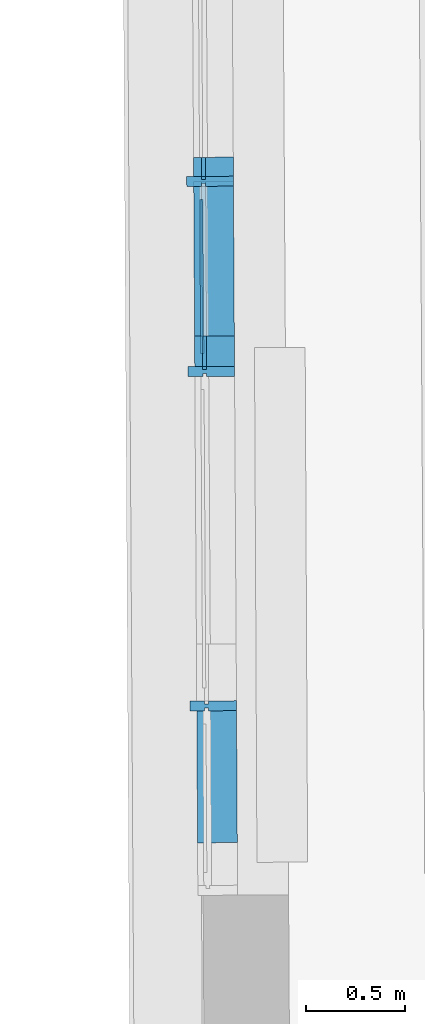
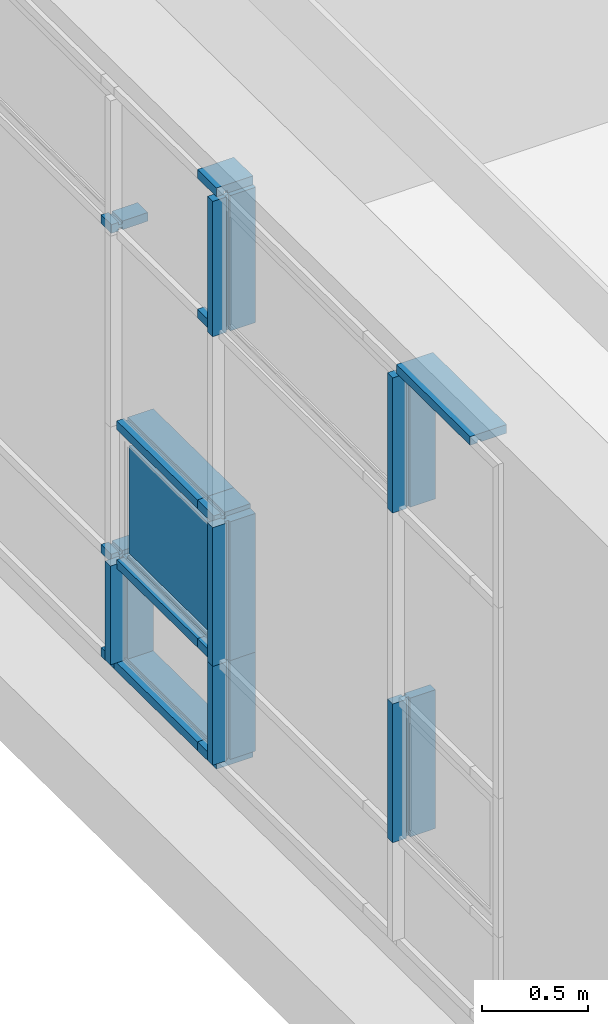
# One storey, part 125 of 158: 19 building element parts, 1 element without a shape of its own.
"""IFC2X3 building model written with IfcOpenShell, lengths in metres."""

from ifc_helpers import new_model, entity, si_unit, converted_unit, derived_unit, money_unit, direction, frame, origin_with_axes, place, context, subcontext, project, spatial, faceted_brep, material, type_object, element, aggregate, save


model = new_model("IFC2X3")

# Units and contexts
model_context = context("Model", 3, precision=1e-05, world=origin_with_axes(), true_north=direction((0.0, 1.0)))
body_context = subcontext(model_context, "Body", "Model", "MODEL_VIEW")
ifc_project = project(units=[si_unit("LENGTHUNIT", "METRE"), si_unit("AREAUNIT", "SQUARE_METRE"), si_unit("VOLUMEUNIT", "CUBIC_METRE"), converted_unit("PLANEANGLEUNIT", "DEGREE", entity("IfcPlaneAngleMeasure", 0.0174532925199), si_unit("PLANEANGLEUNIT", "RADIAN"), dimensions=[0, 0, 0, 0, 0, 0, 0]), money_unit("EUR"), converted_unit("TIMEUNIT", "Year", entity("IfcTimeMeasure", 31556926.0), si_unit("TIMEUNIT", "SECOND"), dimensions=[0, 0, 1, 0, 0, 0, 0]), si_unit("MASSUNIT", "GRAM", prefix="KILO"), si_unit("THERMODYNAMICTEMPERATUREUNIT", "DEGREE_CELSIUS"), si_unit("LUMINOUSINTENSITYUNIT", "LUMEN"), si_unit("ENERGYUNIT", "JOULE", prefix="MEGA"), derived_unit("THERMALCONDUCTANCEUNIT", [(si_unit("POWERUNIT", "WATT"), 1), (si_unit("LENGTHUNIT", "METRE"), -1), (si_unit("THERMODYNAMICTEMPERATUREUNIT", "KELVIN"), -1)]), derived_unit("SPECIFICHEATCAPACITYUNIT", [(si_unit("ENERGYUNIT", "JOULE"), 1), (si_unit("MASSUNIT", "GRAM", prefix="KILO"), -1), (si_unit("THERMODYNAMICTEMPERATUREUNIT", "KELVIN"), -1)]), derived_unit("MASSDENSITYUNIT", [(si_unit("MASSUNIT", "GRAM", prefix="KILO"), 1), (si_unit("VOLUMEUNIT", "CUBIC_METRE"), -1)])], contexts=[model_context])

# Site, building, storey
site_placement = place(None, origin_with_axes())
site = spatial("IfcSite", under=ifc_project, at=site_placement, Name="Gelände", CompositionType="ELEMENT")
building_placement = place(site_placement, origin_with_axes())
building = spatial("IfcBuilding", under=site, at=building_placement, Name="Gebäude", CompositionType="ELEMENT")
storey_placement = place(building_placement, origin_with_axes())
storey = spatial("IfcBuildingStorey", under=building, at=storey_placement, Name="ERDGESCHOSS", CompositionType="ELEMENT", Elevation=0.0)

# Proxy, building element parts
building_element_proxy_type = type_object("IfcBuildingElementProxyType", Name="Fassadentyp", PredefinedType="NOTDEFINED")
proxy_placement = place(storey_placement, frame((-34.889376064, 47.589579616, 1.34043902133), z_axis=(0.0, 0.0, 1.0), x_axis=(1.0, 0.0, 0.0)))
proxy = element("IfcBuildingElementProxy", 1, at=proxy_placement, inside=storey, type_object=building_element_proxy_type, Name="Fassade-002")
ifc_material_1 = material(Name="45_Glas, Normalglas")
building_element_part_1_placement = place(proxy_placement, origin_with_axes())
building_element_part_1 = element("IfcBuildingElementPart", 2, at=building_element_part_1_placement, material=ifc_material_1, Name="45_Glas, Normalglas", context=body_context, shape_type="Brep", body=[
    faceted_brep([(-0.0381650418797, 3.09723014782, 0.710000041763), (-0.0221653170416, 3.09732398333, 0.710000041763), (-0.0176057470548, 2.31987986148, 0.710000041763), (-0.0336054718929, 2.31978602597, 0.710000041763), (-0.0381650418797, 3.09723014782, 1.330000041), (-0.0221653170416, 3.09732398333, 1.330000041), (-0.0176057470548, 2.31987986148, 1.330000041), (-0.0336054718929, 2.31978602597, 1.330000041)], [[[0, 1, 2, 3]], [[4, 5, 1, 0]], [[1, 5, 6, 2]], [[3, 2, 6, 7]], [[0, 3, 7, 4]], [[7, 6, 5, 4]]]),
])
ifc_material_2 = material(Name="53_Metall, Aluminium")
building_element_part_2_placement = place(proxy_placement, origin_with_axes())
building_element_part_2 = element("IfcBuildingElementPart", 3, at=building_element_part_2_placement, material=ifc_material_2, Name="53_Metall, Aluminium", context=body_context, shape_type="Brep", body=[
    faceted_brep([(-0.00869338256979, 3.18740454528, 0.035), (-0.0286930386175, 3.18728725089, 0.035), (-0.0286930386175, 3.18728725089, 0.05), (-0.0686923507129, 3.18705266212, 0.05), (-0.0686923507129, 3.18705266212, 0.0), (0.131304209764, 3.18822560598, 0.0), (0.131304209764, 3.18822560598, 0.05), (-0.00869338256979, 3.18740454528, 0.05), (-0.00940318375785, 3.30843147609, 0.035), (-0.0294028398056, 3.30831418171, 0.035), (-0.0294028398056, 3.30831418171, 0.05), (-0.069402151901, 3.30807959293, 0.05), (-0.069402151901, 3.30807959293, 0.0), (0.130594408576, 3.3092525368, 0.0), (0.130594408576, 3.3092525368, 0.05), (-0.00940318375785, 3.30843147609, 0.05)], [[[0, 1, 2, 3, 4, 5, 6, 7]], [[1, 0, 8, 9]], [[10, 2, 1, 9]], [[2, 10, 11, 3]], [[12, 4, 3, 11]], [[13, 5, 4, 12]], [[14, 6, 5, 13]], [[15, 7, 6, 14]], [[0, 7, 15, 8]], [[8, 15, 14, 13, 12, 11, 10, 9]]]),
])
building_element_part_3_placement = place(proxy_placement, origin_with_axes())
building_element_part_3 = element("IfcBuildingElementPart", 4, at=building_element_part_3_placement, material=ifc_material_2, Name="53_Metall, Aluminium", context=body_context, shape_type="Brep", body=[
    faceted_brep([(-0.00307816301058, 2.22996350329, 0.035), (-0.0230778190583, 2.2298462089, 0.035), (-0.0230778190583, 2.2298462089, 0.05), (-0.0630771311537, 2.22961162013, 0.05), (-0.0630771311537, 2.22961162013, 0.0), (0.136919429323, 2.230784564, 0.0), (0.136919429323, 2.230784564, 0.05), (-0.00307816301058, 2.22996350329, 0.05), (-0.00412493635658, 2.40844695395, 0.035), (-0.0241245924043, 2.40832965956, 0.035), (-0.0241245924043, 2.40832965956, 0.05), (-0.0641239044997, 2.40809507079, 0.05), (-0.0641239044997, 2.40809507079, 0.0), (0.135872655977, 2.40926801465, 0.0), (0.135872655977, 2.40926801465, 0.05), (-0.00412493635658, 2.40844695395, 0.05)], [[[0, 1, 2, 3, 4, 5, 6, 7]], [[1, 0, 8, 9]], [[10, 2, 1, 9]], [[2, 10, 11, 3]], [[12, 4, 3, 11]], [[13, 5, 4, 12]], [[14, 6, 5, 13]], [[15, 7, 6, 14]], [[0, 7, 15, 8]], [[8, 15, 14, 13, 12, 11, 10, 9]]]),
])
building_element_part_4_placement = place(proxy_placement, origin_with_axes())
building_element_part_4 = element("IfcBuildingElementPart", 5, at=building_element_part_4_placement, material=ifc_material_2, Name="53_Metall, Aluminium", context=body_context, shape_type="Brep", body=[
    faceted_brep([(-0.00412493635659, 2.40844695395, 0.035), (-0.0241245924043, 2.40832965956, 0.035), (-0.0241245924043, 2.40832965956, 0.05), (-0.0641239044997, 2.40809507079, 0.05), (-0.0641239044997, 2.40809507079, 0.0), (0.135872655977, 2.40926801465, 0.0), (0.135872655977, 2.40926801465, 0.05), (-0.00412493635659, 2.40844695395, 0.05), (-0.00869338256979, 3.18740454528, 0.035), (-0.0286930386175, 3.18728725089, 0.035), (-0.0286930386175, 3.18728725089, 0.05), (-0.0686923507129, 3.18705266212, 0.05), (-0.0686923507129, 3.18705266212, 0.0), (0.131304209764, 3.18822560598, 0.0), (0.131304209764, 3.18822560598, 0.05), (-0.00869338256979, 3.18740454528, 0.05)], [[[0, 1, 2, 3, 4, 5, 6, 7]], [[1, 0, 8, 9]], [[10, 2, 1, 9]], [[2, 10, 11, 3]], [[12, 4, 3, 11]], [[13, 5, 4, 12]], [[14, 6, 5, 13]], [[15, 7, 6, 14]], [[0, 7, 15, 8]], [[8, 15, 14, 13, 12, 11, 10, 9]]]),
])
building_element_part_5_placement = place(proxy_placement, origin_with_axes())
building_element_part_5 = element("IfcBuildingElementPart", 6, at=building_element_part_5_placement, material=ifc_material_2, Name="53_Metall, Aluminium", context=body_context, shape_type="Brep", body=[
    faceted_brep([(-0.00884000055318, 3.21240411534, 2.51000003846), (-0.00884000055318, 3.21240411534, 2.49500003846), (0.131157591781, 3.21322517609, 2.49500003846), (0.131157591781, 3.21322517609, 2.54500003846), (-0.00884000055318, 3.21240411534, 2.54500003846), (-0.00884000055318, 3.21240411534, 2.53000003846), (-0.0288396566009, 3.21228682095, 2.53000003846), (-0.0288396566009, 3.21228682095, 2.54500003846), (-0.0688389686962, 3.21205223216, 2.54500003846), (-0.0688389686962, 3.21205223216, 2.49500003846), (-0.0288396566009, 3.21228682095, 2.49500003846), (-0.0288396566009, 3.21228682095, 2.51000003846), (-0.00940318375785, 3.30843147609, 2.51000003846), (-0.00940318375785, 3.30843147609, 2.49500003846), (0.130594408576, 3.3092525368, 2.49500003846), (0.130594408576, 3.3092525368, 2.54500003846), (-0.00940318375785, 3.30843147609, 2.54500003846), (-0.00940318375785, 3.30843147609, 2.53000003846), (-0.0294028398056, 3.30831418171, 2.53000003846), (-0.0294028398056, 3.30831418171, 2.54500003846), (-0.069402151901, 3.30807959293, 2.54500003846), (-0.069402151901, 3.30807959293, 2.49500003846), (-0.0294028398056, 3.30831418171, 2.49500003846), (-0.0294028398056, 3.30831418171, 2.51000003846)], [[[0, 1, 2, 3, 4, 5, 6, 7, 8, 9, 10, 11]], [[1, 0, 12, 13]], [[1, 13, 14, 2]], [[3, 2, 14, 15]], [[4, 3, 15, 16]], [[4, 16, 17, 5]], [[5, 17, 18, 6]], [[7, 6, 18, 19]], [[19, 20, 8, 7]], [[9, 8, 20, 21]], [[22, 10, 9, 21]], [[11, 10, 22, 23]], [[0, 11, 23, 12]], [[23, 22, 21, 20, 19, 18, 17, 16, 15, 14, 13, 12]]]),
])
building_element_part_6_placement = place(proxy_placement, origin_with_axes())
building_element_part_6 = element("IfcBuildingElementPart", 7, at=building_element_part_6_placement, material=ifc_material_2, Name="53_Metall, Aluminium", context=body_context, shape_type="Brep", body=[
    faceted_brep([(-0.00412493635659, 2.40844695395, 0.610000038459), (-0.00412493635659, 2.40844695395, 0.595000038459), (0.135872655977, 2.40926801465, 0.595000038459), (0.135872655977, 2.40926801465, 0.645000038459), (-0.00412493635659, 2.40844695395, 0.645000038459), (-0.00412493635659, 2.40844695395, 0.630000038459), (-0.0241245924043, 2.40832965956, 0.630000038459), (-0.0241245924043, 2.40832965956, 0.645000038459), (-0.0641239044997, 2.40809507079, 0.645000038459), (-0.0641239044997, 2.40809507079, 0.595000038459), (-0.0241245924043, 2.40832965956, 0.595000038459), (-0.0241245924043, 2.40832965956, 0.610000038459), (-0.00854676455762, 3.16240497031, 0.610000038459), (-0.00854676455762, 3.16240497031, 0.595000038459), (0.131450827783, 3.16322602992, 0.595000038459), (0.131450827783, 3.16322602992, 0.645000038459), (-0.00854676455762, 3.16240497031, 0.645000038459), (-0.00854676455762, 3.16240497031, 0.630000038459), (-0.0285464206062, 3.16228767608, 0.630000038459), (-0.0285464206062, 3.16228767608, 0.645000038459), (-0.0685457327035, 3.16205308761, 0.645000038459), (-0.0685457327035, 3.16205308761, 0.595000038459), (-0.0285464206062, 3.16228767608, 0.595000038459), (-0.0285464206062, 3.16228767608, 0.610000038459)], [[[0, 1, 2, 3, 4, 5, 6, 7, 8, 9, 10, 11]], [[1, 0, 12, 13]], [[1, 13, 14, 2]], [[2, 14, 15, 3]], [[4, 3, 15, 16]], [[4, 16, 17, 5]], [[5, 17, 18, 6]], [[7, 6, 18, 19]], [[19, 20, 8, 7]], [[8, 20, 21, 9]], [[22, 10, 9, 21]], [[11, 10, 22, 23]], [[0, 11, 23, 12]], [[23, 22, 21, 20, 19, 18, 17, 16, 15, 14, 13, 12]]]),
])
building_element_part_7_placement = place(proxy_placement, origin_with_axes())
building_element_part_7 = element("IfcBuildingElementPart", 8, at=building_element_part_7_placement, material=ifc_material_2, Name="53_Metall, Aluminium", context=body_context, shape_type="Brep", body=[
    faceted_brep([(-0.00863473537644, 3.17740471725, 0.620000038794), (-0.00854676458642, 3.16240497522, 0.620000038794), (0.131450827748, 3.16322603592, 0.620000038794), (0.131157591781, 3.21322517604, 0.620000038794), (-0.00884000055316, 3.21240411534, 0.620000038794), (-0.00875202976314, 3.1974043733, 0.620000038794), (-0.0287516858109, 3.19728707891, 0.620000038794), (-0.0288396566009, 3.21228682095, 0.620000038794), (-0.10383836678, 3.211846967, 0.620000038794), (-0.103545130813, 3.16184782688, 0.620000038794), (-0.0285464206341, 3.16228768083, 0.620000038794), (-0.0286343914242, 3.17728742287, 0.620000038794), (-0.00863473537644, 3.17740471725, 0.0500000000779), (-0.00854676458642, 3.16240497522, 0.0500000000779), (0.131450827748, 3.16322603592, 0.0500000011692), (0.131157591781, 3.21322517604, 0.0500000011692), (-0.00884000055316, 3.21240411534, 0.0500000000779), (-0.00875202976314, 3.1974043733, 0.0500000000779), (-0.0287516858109, 3.19728707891, 0.0499999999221), (-0.0288396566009, 3.21228682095, 0.0499999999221), (-0.10383836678, 3.211846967, 0.0499999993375), (-0.103545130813, 3.16184782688, 0.0499999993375), (-0.0285464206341, 3.16228768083, 0.0499999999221), (-0.0286343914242, 3.17728742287, 0.0499999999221)], [[[0, 1, 2, 3, 4, 5, 6, 7, 8, 9, 10, 11]], [[1, 0, 12, 13]], [[1, 13, 14, 2]], [[2, 14, 15, 3]], [[4, 3, 15, 16]], [[4, 16, 17, 5]], [[5, 17, 18, 6]], [[7, 6, 18, 19]], [[19, 20, 8, 7]], [[8, 20, 21, 9]], [[22, 10, 9, 21]], [[11, 10, 22, 23]], [[0, 11, 23, 12]], [[23, 22, 21, 20, 19, 18, 17, 16, 15, 14, 13, 12]]]),
])
building_element_part_8_placement = place(proxy_placement, origin_with_axes())
building_element_part_8 = element("IfcBuildingElementPart", 9, at=building_element_part_8_placement, material=ifc_material_2, Name="53_Metall, Aluminium", context=body_context, shape_type="Brep", body=[
    faceted_brep([(-0.00301951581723, 2.21996367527, 0.620000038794), (-0.00293154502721, 2.20496393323, 0.620000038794), (0.137066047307, 2.20578499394, 0.620000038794), (0.13677281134, 2.25578413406, 0.620000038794), (-0.00322478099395, 2.25496307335, 0.620000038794), (-0.00313681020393, 2.23996333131, 0.620000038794), (-0.0231364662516, 2.23984603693, 0.620000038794), (-0.0232244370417, 2.25484577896, 0.620000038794), (-0.0982231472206, 2.25440592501, 0.620000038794), (-0.0979299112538, 2.20440678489, 0.620000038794), (-0.0229312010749, 2.20484663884, 0.620000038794), (-0.0230191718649, 2.21984638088, 0.620000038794), (-0.00301951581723, 2.21996367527, 0.0500000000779), (-0.00293154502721, 2.20496393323, 0.0500000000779), (0.137066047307, 2.20578499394, 0.0500000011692), (0.13677281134, 2.25578413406, 0.0500000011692), (-0.00322478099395, 2.25496307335, 0.0500000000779), (-0.00313681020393, 2.23996333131, 0.0500000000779), (-0.0231364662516, 2.23984603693, 0.0499999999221), (-0.0232244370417, 2.25484577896, 0.0499999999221), (-0.0982231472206, 2.25440592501, 0.0499999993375), (-0.0979299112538, 2.20440678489, 0.0499999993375), (-0.0229312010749, 2.20484663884, 0.0499999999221), (-0.0230191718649, 2.21984638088, 0.0499999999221)], [[[0, 1, 2, 3, 4, 5, 6, 7, 8, 9, 10, 11]], [[1, 0, 12, 13]], [[1, 13, 14, 2]], [[2, 14, 15, 3]], [[4, 3, 15, 16]], [[4, 16, 17, 5]], [[5, 17, 18, 6]], [[7, 6, 18, 19]], [[19, 20, 8, 7]], [[8, 20, 21, 9]], [[22, 10, 9, 21]], [[11, 10, 22, 23]], [[0, 11, 23, 12]], [[23, 22, 21, 20, 19, 18, 17, 16, 15, 14, 13, 12]]]),
])
building_element_part_9_placement = place(proxy_placement, origin_with_axes())
building_element_part_9 = element("IfcBuildingElementPart", 10, at=building_element_part_9_placement, material=ifc_material_2, Name="53_Metall, Aluminium", context=body_context, shape_type="Brep", body=[
    faceted_brep([(-0.00301951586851, 2.21996368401, 1.42000003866), (-0.00293154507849, 2.20496394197, 1.42000003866), (0.137066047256, 2.20578500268, 1.42000003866), (0.136772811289, 2.2557841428, 1.42000003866), (-0.00322478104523, 2.25496308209, 1.42000003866), (-0.00313681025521, 2.23996334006, 1.42000003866), (-0.0231364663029, 2.23984604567, 1.42000003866), (-0.0232244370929, 2.25484578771, 1.42000003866), (-0.0982231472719, 2.25440593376, 1.42000003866), (-0.0979299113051, 2.20440679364, 1.42000003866), (-0.0229312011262, 2.20484664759, 1.42000003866), (-0.0230191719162, 2.21984638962, 1.42000003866), (-0.00301951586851, 2.21996368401, 0.620000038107), (-0.00293154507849, 2.20496394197, 0.620000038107), (0.137066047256, 2.20578500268, 0.620000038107), (0.136772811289, 2.2557841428, 0.620000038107), (-0.00322478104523, 2.25496308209, 0.620000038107), (-0.00313681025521, 2.23996334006, 0.620000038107), (-0.0231364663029, 2.23984604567, 0.620000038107), (-0.0232244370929, 2.25484578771, 0.620000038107), (-0.0982231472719, 2.25440593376, 0.620000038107), (-0.0979299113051, 2.20440679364, 0.620000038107), (-0.0229312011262, 2.20484664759, 0.620000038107), (-0.0230191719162, 2.21984638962, 0.620000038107)], [[[0, 1, 2, 3, 4, 5, 6, 7, 8, 9, 10, 11]], [[1, 0, 12, 13]], [[1, 13, 14, 2]], [[3, 2, 14, 15]], [[4, 3, 15, 16]], [[4, 16, 17, 5]], [[5, 17, 18, 6]], [[7, 6, 18, 19]], [[19, 20, 8, 7]], [[9, 8, 20, 21]], [[22, 10, 9, 21]], [[11, 10, 22, 23]], [[0, 11, 23, 12]], [[23, 22, 21, 20, 19, 18, 17, 16, 15, 14, 13, 12]]]),
])
building_element_part_10_placement = place(proxy_placement, origin_with_axes())
building_element_part_10 = element("IfcBuildingElementPart", 11, at=building_element_part_10_placement, material=ifc_material_2, Name="53_Metall, Aluminium", context=body_context, shape_type="Brep", body=[
    faceted_brep([(-0.00322478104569, 2.25496308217, 1.41000003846), (-0.00322478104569, 2.25496308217, 1.39500003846), (0.136772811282, 2.25578414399, 1.39500003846), (0.136772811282, 2.25578414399, 1.44500003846), (-0.00322478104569, 2.25496308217, 1.44500003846), (-0.00322478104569, 2.25496308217, 1.43000003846), (-0.0232244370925, 2.25484578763, 1.43000003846), (-0.0232244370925, 2.25484578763, 1.44500003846), (-0.063223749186, 2.25461119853, 1.44500003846), (-0.063223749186, 2.25461119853, 1.39500003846), (-0.0232244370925, 2.25484578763, 1.39500003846), (-0.0232244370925, 2.25484578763, 1.41000003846), (-0.00412493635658, 2.40844695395, 1.41000003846), (-0.00412493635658, 2.40844695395, 1.39500003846), (0.135872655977, 2.40926801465, 1.39500003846), (0.135872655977, 2.40926801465, 1.44500003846), (-0.00412493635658, 2.40844695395, 1.44500003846), (-0.00412493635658, 2.40844695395, 1.43000003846), (-0.0241245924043, 2.40832965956, 1.43000003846), (-0.0241245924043, 2.40832965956, 1.44500003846), (-0.0641239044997, 2.40809507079, 1.44500003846), (-0.0641239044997, 2.40809507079, 1.39500003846), (-0.0241245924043, 2.40832965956, 1.39500003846), (-0.0241245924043, 2.40832965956, 1.41000003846)], [[[0, 1, 2, 3, 4, 5, 6, 7, 8, 9, 10, 11]], [[1, 0, 12, 13]], [[1, 13, 14, 2]], [[3, 2, 14, 15]], [[4, 3, 15, 16]], [[4, 16, 17, 5]], [[5, 17, 18, 6]], [[7, 6, 18, 19]], [[19, 20, 8, 7]], [[9, 8, 20, 21]], [[22, 10, 9, 21]], [[11, 10, 22, 23]], [[0, 11, 23, 12]], [[23, 22, 21, 20, 19, 18, 17, 16, 15, 14, 13, 12]]]),
])
building_element_part_11_placement = place(proxy_placement, origin_with_axes())
building_element_part_11 = element("IfcBuildingElementPart", 12, at=building_element_part_11_placement, material=ifc_material_2, Name="53_Metall, Aluminium", context=body_context, shape_type="Brep", body=[
    faceted_brep([(-0.00412493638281, 2.40844695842, 1.41000003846), (-0.00412493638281, 2.40844695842, 1.39500003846), (0.135872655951, 2.40926801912, 1.39500003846), (0.135872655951, 2.40926801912, 1.44500003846), (-0.00412493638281, 2.40844695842, 1.44500003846), (-0.00412493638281, 2.40844695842, 1.43000003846), (-0.0241245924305, 2.40832966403, 1.43000003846), (-0.0241245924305, 2.40832966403, 1.44500003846), (-0.0641239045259, 2.40809507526, 1.44500003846), (-0.0641239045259, 2.40809507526, 1.39500003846), (-0.0241245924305, 2.40832966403, 1.39500003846), (-0.0241245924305, 2.40832966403, 1.41000003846), (-0.00854676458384, 3.16240497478, 1.41000003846), (-0.00854676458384, 3.16240497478, 1.39500003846), (0.131450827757, 3.16322603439, 1.39500003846), (0.131450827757, 3.16322603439, 1.44500003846), (-0.00854676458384, 3.16240497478, 1.44500003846), (-0.00854676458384, 3.16240497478, 1.43000003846), (-0.0285464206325, 3.16228768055, 1.43000003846), (-0.0285464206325, 3.16228768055, 1.44500003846), (-0.0685457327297, 3.16205309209, 1.44500003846), (-0.0685457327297, 3.16205309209, 1.39500003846), (-0.0285464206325, 3.16228768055, 1.39500003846), (-0.0285464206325, 3.16228768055, 1.41000003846)], [[[0, 1, 2, 3, 4, 5, 6, 7, 8, 9, 10, 11]], [[1, 0, 12, 13]], [[1, 13, 14, 2]], [[2, 14, 15, 3]], [[4, 3, 15, 16]], [[4, 16, 17, 5]], [[5, 17, 18, 6]], [[7, 6, 18, 19]], [[19, 20, 8, 7]], [[8, 20, 21, 9]], [[22, 10, 9, 21]], [[11, 10, 22, 23]], [[0, 11, 23, 12]], [[23, 22, 21, 20, 19, 18, 17, 16, 15, 14, 13, 12]]]),
])
building_element_part_12_placement = place(proxy_placement, origin_with_axes())
building_element_part_12 = element("IfcBuildingElementPart", 13, at=building_element_part_12_placement, material=ifc_material_2, Name="53_Metall, Aluminium", context=body_context, shape_type="Brep", body=[
    faceted_brep([(-0.00884000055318, 3.21240411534, 0.610000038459), (-0.00884000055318, 3.21240411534, 0.595000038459), (0.131157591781, 3.21322517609, 0.595000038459), (0.131157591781, 3.21322517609, 0.645000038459), (-0.00884000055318, 3.21240411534, 0.645000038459), (-0.00884000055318, 3.21240411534, 0.630000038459), (-0.0288396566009, 3.21228682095, 0.630000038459), (-0.0288396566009, 3.21228682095, 0.645000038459), (-0.0688389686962, 3.21205223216, 0.645000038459), (-0.0688389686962, 3.21205223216, 0.595000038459), (-0.0288396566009, 3.21228682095, 0.595000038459), (-0.0288396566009, 3.21228682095, 0.610000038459), (-0.00940318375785, 3.30843147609, 0.610000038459), (-0.00940318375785, 3.30843147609, 0.595000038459), (0.130594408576, 3.3092525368, 0.595000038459), (0.130594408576, 3.3092525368, 0.645000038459), (-0.00940318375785, 3.30843147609, 0.645000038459), (-0.00940318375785, 3.30843147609, 0.630000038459), (-0.0294028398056, 3.30831418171, 0.630000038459), (-0.0294028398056, 3.30831418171, 0.645000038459), (-0.069402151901, 3.30807959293, 0.645000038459), (-0.069402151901, 3.30807959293, 0.595000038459), (-0.0294028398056, 3.30831418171, 0.595000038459), (-0.0294028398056, 3.30831418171, 0.610000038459)], [[[0, 1, 2, 3, 4, 5, 6, 7, 8, 9, 10, 11]], [[1, 0, 12, 13]], [[1, 13, 14, 2]], [[3, 2, 14, 15]], [[4, 3, 15, 16]], [[4, 16, 17, 5]], [[5, 17, 18, 6]], [[7, 6, 18, 19]], [[19, 20, 8, 7]], [[9, 8, 20, 21]], [[22, 10, 9, 21]], [[11, 10, 22, 23]], [[0, 11, 23, 12]], [[23, 22, 21, 20, 19, 18, 17, 16, 15, 14, 13, 12]]]),
])
building_element_part_13_placement = place(proxy_placement, origin_with_axes())
building_element_part_13 = element("IfcBuildingElementPart", 14, at=building_element_part_13_placement, material=ifc_material_2, Name="53_Metall, Aluminium", context=body_context, shape_type="Brep", body=[
    faceted_brep([(-0.00322478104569, 2.25496308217, 0.610000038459), (-0.00322478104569, 2.25496308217, 0.595000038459), (0.136772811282, 2.25578414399, 0.595000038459), (0.136772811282, 2.25578414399, 0.645000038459), (-0.00322478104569, 2.25496308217, 0.645000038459), (-0.00322478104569, 2.25496308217, 0.630000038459), (-0.0232244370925, 2.25484578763, 0.630000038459), (-0.0232244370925, 2.25484578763, 0.645000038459), (-0.063223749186, 2.25461119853, 0.645000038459), (-0.063223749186, 2.25461119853, 0.595000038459), (-0.0232244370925, 2.25484578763, 0.595000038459), (-0.0232244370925, 2.25484578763, 0.610000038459), (-0.00412493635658, 2.40844695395, 0.610000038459), (-0.00412493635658, 2.40844695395, 0.595000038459), (0.135872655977, 2.40926801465, 0.595000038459), (0.135872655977, 2.40926801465, 0.645000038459), (-0.00412493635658, 2.40844695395, 0.645000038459), (-0.00412493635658, 2.40844695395, 0.630000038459), (-0.0241245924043, 2.40832965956, 0.630000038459), (-0.0241245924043, 2.40832965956, 0.645000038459), (-0.0641239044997, 2.40809507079, 0.645000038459), (-0.0641239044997, 2.40809507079, 0.595000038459), (-0.0241245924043, 2.40832965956, 0.595000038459), (-0.0241245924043, 2.40832965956, 0.610000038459)], [[[0, 1, 2, 3, 4, 5, 6, 7, 8, 9, 10, 11]], [[1, 0, 12, 13]], [[1, 13, 14, 2]], [[3, 2, 14, 15]], [[4, 3, 15, 16]], [[4, 16, 17, 5]], [[5, 17, 18, 6]], [[7, 6, 18, 19]], [[19, 20, 8, 7]], [[9, 8, 20, 21]], [[22, 10, 9, 21]], [[11, 10, 22, 23]], [[0, 11, 23, 12]], [[23, 22, 21, 20, 19, 18, 17, 16, 15, 14, 13, 12]]]),
])
building_element_part_14_placement = place(proxy_placement, origin_with_axes())
building_element_part_14 = element("IfcBuildingElementPart", 15, at=building_element_part_14_placement, material=ifc_material_2, Name="53_Metall, Aluminium", context=body_context, shape_type="Brep", body=[
    faceted_brep([(-0.00322478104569, 2.25496308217, 2.51000003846), (-0.00322478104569, 2.25496308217, 2.49500003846), (0.136772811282, 2.25578414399, 2.49500003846), (0.136772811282, 2.25578414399, 2.54500003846), (-0.00322478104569, 2.25496308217, 2.54500003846), (-0.00322478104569, 2.25496308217, 2.53000003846), (-0.0232244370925, 2.25484578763, 2.53000003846), (-0.0232244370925, 2.25484578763, 2.54500003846), (-0.063223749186, 2.25461119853, 2.54500003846), (-0.063223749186, 2.25461119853, 2.49500003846), (-0.0232244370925, 2.25484578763, 2.49500003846), (-0.0232244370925, 2.25484578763, 2.51000003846), (-0.00412493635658, 2.40844695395, 2.51000003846), (-0.00412493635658, 2.40844695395, 2.49500003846), (0.135872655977, 2.40926801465, 2.49500003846), (0.135872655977, 2.40926801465, 2.54500003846), (-0.00412493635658, 2.40844695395, 2.54500003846), (-0.00412493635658, 2.40844695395, 2.53000003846), (-0.0241245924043, 2.40832965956, 2.53000003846), (-0.0241245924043, 2.40832965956, 2.54500003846), (-0.0641239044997, 2.40809507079, 2.54500003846), (-0.0641239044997, 2.40809507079, 2.49500003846), (-0.0241245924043, 2.40832965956, 2.49500003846), (-0.0241245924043, 2.40832965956, 2.51000003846)], [[[0, 1, 2, 3, 4, 5, 6, 7, 8, 9, 10, 11]], [[1, 0, 12, 13]], [[1, 13, 14, 2]], [[3, 2, 14, 15]], [[4, 3, 15, 16]], [[4, 16, 17, 5]], [[5, 17, 18, 6]], [[7, 6, 18, 19]], [[19, 20, 8, 7]], [[9, 8, 20, 21]], [[22, 10, 9, 21]], [[11, 10, 22, 23]], [[0, 11, 23, 12]], [[23, 22, 21, 20, 19, 18, 17, 16, 15, 14, 13, 12]]]),
])
building_element_part_15_placement = place(proxy_placement, origin_with_axes())
building_element_part_15 = element("IfcBuildingElementPart", 16, at=building_element_part_15_placement, material=ifc_material_2, Name="53_Metall, Aluminium", context=body_context, shape_type="Brep", body=[
    faceted_brep([(0.00684723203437, 0.537602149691, 1.42000003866), (0.00693520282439, 0.522602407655, 1.42000003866), (0.146932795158, 0.523423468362, 1.42000003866), (0.146639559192, 0.573422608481, 1.42000003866), (0.00664196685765, 0.572601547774, 1.42000003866), (0.00672993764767, 0.557601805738, 1.42000003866), (-0.0132697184, 0.557484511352, 1.42000003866), (-0.0133576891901, 0.572484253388, 1.42000003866), (-0.088356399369, 0.572044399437, 1.42000003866), (-0.0880631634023, 0.522045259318, 1.42000003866), (-0.0130644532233, 0.522485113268, 1.42000003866), (-0.0131524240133, 0.537484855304, 1.42000003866), (0.00684723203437, 0.537602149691, 0.620000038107), (0.00693520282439, 0.522602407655, 0.620000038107), (0.146932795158, 0.523423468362, 0.620000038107), (0.146639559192, 0.573422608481, 0.620000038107), (0.00664196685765, 0.572601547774, 0.620000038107), (0.00672993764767, 0.557601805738, 0.620000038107), (-0.0132697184, 0.557484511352, 0.620000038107), (-0.0133576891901, 0.572484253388, 0.620000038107), (-0.088356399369, 0.572044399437, 0.620000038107), (-0.0880631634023, 0.522045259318, 0.620000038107), (-0.0130644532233, 0.522485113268, 0.620000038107), (-0.0131524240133, 0.537484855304, 0.620000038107)], [[[0, 1, 2, 3, 4, 5, 6, 7, 8, 9, 10, 11]], [[1, 0, 12, 13]], [[1, 13, 14, 2]], [[3, 2, 14, 15]], [[4, 3, 15, 16]], [[4, 16, 17, 5]], [[5, 17, 18, 6]], [[7, 6, 18, 19]], [[19, 20, 8, 7]], [[9, 8, 20, 21]], [[22, 10, 9, 21]], [[11, 10, 22, 23]], [[0, 11, 23, 12]], [[23, 22, 21, 20, 19, 18, 17, 16, 15, 14, 13, 12]]]),
])
building_element_part_16_placement = place(proxy_placement, origin_with_axes())
building_element_part_16 = element("IfcBuildingElementPart", 17, at=building_element_part_16_placement, material=ifc_material_2, Name="53_Metall, Aluminium", context=body_context, shape_type="Brep", body=[
    faceted_brep([(0.00684723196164, 0.537602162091, 3.29999990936), (0.00693520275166, 0.522602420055, 3.29999990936), (0.146932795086, 0.523423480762, 3.29999990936), (0.146639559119, 0.573422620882, 3.29999990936), (0.00664196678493, 0.572601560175, 3.29999990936), (0.00672993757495, 0.557601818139, 3.29999990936), (-0.0132697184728, 0.557484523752, 3.29999990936), (-0.0133576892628, 0.572484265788, 3.29999990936), (-0.0883563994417, 0.572044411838, 3.29999990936), (-0.088063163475, 0.522045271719, 3.29999990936), (-0.0130644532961, 0.522485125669, 3.29999990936), (-0.0131524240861, 0.537484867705, 3.29999990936), (0.00684723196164, 0.537602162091, 2.52000003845), (0.00693520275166, 0.522602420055, 2.52000003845), (0.146932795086, 0.523423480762, 2.52000003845), (0.146639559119, 0.573422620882, 2.52000003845), (0.00664196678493, 0.572601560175, 2.52000003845), (0.00672993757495, 0.557601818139, 2.52000003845), (-0.0132697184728, 0.557484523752, 2.52000003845), (-0.0133576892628, 0.572484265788, 2.52000003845), (-0.0883563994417, 0.572044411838, 2.52000003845), (-0.088063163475, 0.522045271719, 2.52000003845), (-0.0130644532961, 0.522485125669, 2.52000003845), (-0.0131524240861, 0.537484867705, 2.52000003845)], [[[0, 1, 2, 3, 4, 5, 6, 7, 8, 9, 10, 11]], [[1, 0, 12, 13]], [[1, 13, 14, 2]], [[3, 2, 14, 15]], [[4, 3, 15, 16]], [[4, 16, 17, 5]], [[5, 17, 18, 6]], [[7, 6, 18, 19]], [[19, 20, 8, 7]], [[9, 8, 20, 21]], [[22, 10, 9, 21]], [[11, 10, 22, 23]], [[0, 11, 23, 12]], [[23, 22, 21, 20, 19, 18, 17, 16, 15, 14, 13, 12]]]),
])
building_element_part_17_placement = place(proxy_placement, origin_with_axes())
building_element_part_17 = element("IfcBuildingElementPart", 18, at=building_element_part_17_placement, material=ifc_material_2, Name="53_Metall, Aluminium", context=body_context, shape_type="Brep", body=[
    faceted_brep([(-0.00307816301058, 2.22996350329, 3.31499990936), (-0.00307816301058, 2.22996350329, 3.29999990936), (0.136919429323, 2.230784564, 3.29999990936), (0.136919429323, 2.230784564, 3.34999990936), (-0.0630771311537, 2.22961162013, 3.34999990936), (-0.0630771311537, 2.22961162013, 3.29999990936), (-0.0230778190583, 2.2298462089, 3.29999990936), (-0.0230778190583, 2.2298462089, 3.31499990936), (-0.00412493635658, 2.40844695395, 3.31499990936), (-0.00412493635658, 2.40844695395, 3.29999990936), (0.135872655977, 2.40926801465, 3.29999990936), (0.135872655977, 2.40926801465, 3.34999990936), (-0.0641239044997, 2.40809507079, 3.34999990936), (-0.0641239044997, 2.40809507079, 3.29999990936), (-0.0241245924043, 2.40832965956, 3.29999990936), (-0.0241245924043, 2.40832965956, 3.31499990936)], [[[0, 1, 2, 3, 4, 5, 6, 7]], [[0, 8, 9, 1]], [[9, 10, 2, 1]], [[10, 11, 3, 2]], [[11, 12, 4, 3]], [[12, 13, 5, 4]], [[6, 5, 13, 14]], [[14, 15, 7, 6]], [[7, 15, 8, 0]], [[8, 15, 14, 13, 12, 11, 10, 9]]]),
])
building_element_part_18_placement = place(proxy_placement, origin_with_axes())
building_element_part_18 = element("IfcBuildingElementPart", 19, at=building_element_part_18_placement, material=ifc_material_2, Name="53_Metall, Aluminium", context=body_context, shape_type="Brep", body=[
    faceted_brep([(-0.00301951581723, 2.21996367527, 3.29999990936), (-0.00293154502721, 2.20496393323, 3.29999990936), (0.137066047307, 2.20578499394, 3.29999990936), (0.13677281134, 2.25578413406, 3.29999990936), (-0.00322478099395, 2.25496307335, 3.29999990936), (-0.00313681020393, 2.23996333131, 3.29999990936), (-0.0231364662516, 2.23984603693, 3.29999990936), (-0.0232244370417, 2.25484577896, 3.29999990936), (-0.0982231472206, 2.25440592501, 3.29999990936), (-0.0979299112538, 2.20440678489, 3.29999990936), (-0.0229312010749, 2.20484663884, 3.29999990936), (-0.0230191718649, 2.21984638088, 3.29999990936), (-0.00301951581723, 2.21996367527, 2.52000003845), (-0.00293154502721, 2.20496393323, 2.52000003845), (0.137066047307, 2.20578499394, 2.52000003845), (0.13677281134, 2.25578413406, 2.52000003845), (-0.00322478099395, 2.25496307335, 2.52000003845), (-0.00313681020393, 2.23996333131, 2.52000003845), (-0.0231364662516, 2.23984603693, 2.52000003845), (-0.0232244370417, 2.25484577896, 2.52000003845), (-0.0982231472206, 2.25440592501, 2.52000003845), (-0.0979299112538, 2.20440678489, 2.52000003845), (-0.0229312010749, 2.20484663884, 2.52000003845), (-0.0230191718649, 2.21984638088, 2.52000003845)], [[[0, 1, 2, 3, 4, 5, 6, 7, 8, 9, 10, 11]], [[1, 0, 12, 13]], [[1, 13, 14, 2]], [[3, 2, 14, 15]], [[4, 3, 15, 16]], [[4, 16, 17, 5]], [[5, 17, 18, 6]], [[7, 6, 18, 19]], [[19, 20, 8, 7]], [[9, 8, 20, 21]], [[22, 10, 9, 21]], [[11, 10, 22, 23]], [[0, 11, 23, 12]], [[23, 22, 21, 20, 19, 18, 17, 16, 15, 14, 13, 12]]]),
])
building_element_part_19_placement = place(proxy_placement, origin_with_axes())
building_element_part_19 = element("IfcBuildingElementPart", 20, at=building_element_part_19_placement, material=ifc_material_2, Name="53_Metall, Aluminium", context=body_context, shape_type="Brep", body=[
    faceted_brep([(0.010830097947, -0.141509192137, 3.31499990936), (0.010830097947, -0.141509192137, 3.29999990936), (0.150827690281, -0.140688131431, 3.29999990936), (0.150827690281, -0.140688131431, 3.34999990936), (-0.0491688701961, -0.141861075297, 3.34999990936), (-0.0491688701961, -0.141861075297, 3.29999990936), (-0.00916955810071, -0.141626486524, 3.29999990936), (-0.00916955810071, -0.141626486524, 3.31499990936), (0.00678858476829, 0.547601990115, 3.31499990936), (0.00678858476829, 0.547601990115, 3.29999990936), (0.146786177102, 0.548423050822, 3.29999990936), (0.146786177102, 0.548423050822, 3.34999990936), (-0.0532103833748, 0.547250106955, 3.34999990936), (-0.0532103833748, 0.547250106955, 3.29999990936), (-0.0132110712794, 0.547484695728, 3.29999990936), (-0.0132110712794, 0.547484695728, 3.31499990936)], [[[0, 1, 2, 3, 4, 5, 6, 7]], [[0, 8, 9, 1]], [[9, 10, 2, 1]], [[10, 11, 3, 2]], [[11, 12, 4, 3]], [[12, 13, 5, 4]], [[6, 5, 13, 14]], [[14, 15, 7, 6]], [[7, 15, 8, 0]], [[8, 15, 14, 13, 12, 11, 10, 9]]]),
])
aggregate(proxy, [building_element_part_1, building_element_part_2, building_element_part_3, building_element_part_4, building_element_part_5, building_element_part_6, building_element_part_7, building_element_part_8, building_element_part_9, building_element_part_10, building_element_part_11, building_element_part_12, building_element_part_13, building_element_part_14, building_element_part_15, building_element_part_16, building_element_part_17, building_element_part_18, building_element_part_19])

save(model, "model.ifc")
